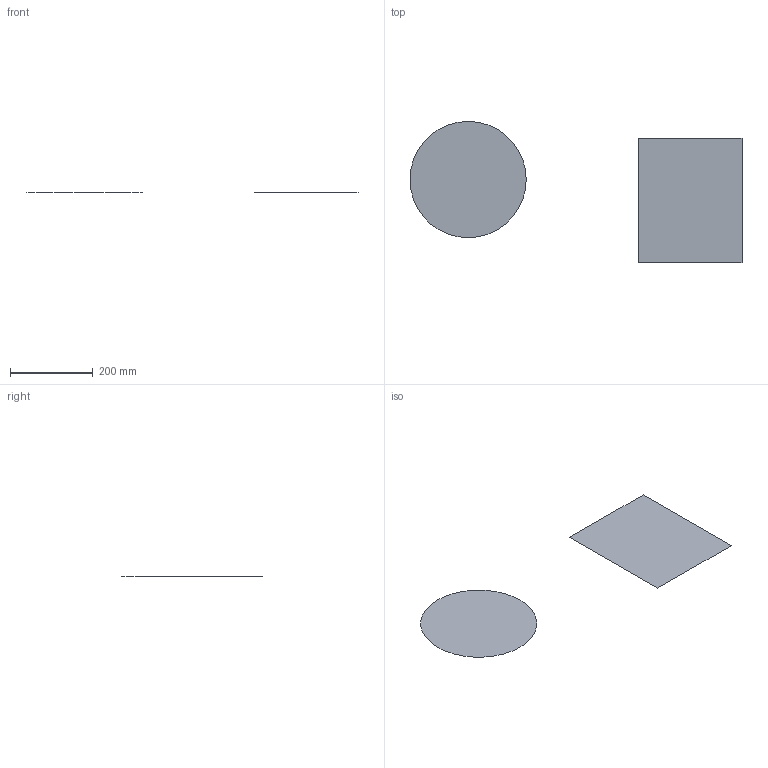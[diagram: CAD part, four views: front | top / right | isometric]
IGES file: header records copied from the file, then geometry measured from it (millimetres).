
Global section: file name: Filename.iges; native system: Open CASCADE 7.9; preprocessor: Open CASCADE IGES processor 7.9; author: HAKAN KARATEKE; date: 20261015.195651; units: metre
Bounding box: 800.03 x 340.03 x 0 mm (x, y, z)
Surface area: 136599.3 mm2 (no closed solid volume)
Topology: 0 solids, 0 shells, 2 faces, 5 edges, 5 vertices
Faces by surface type: plane 2
